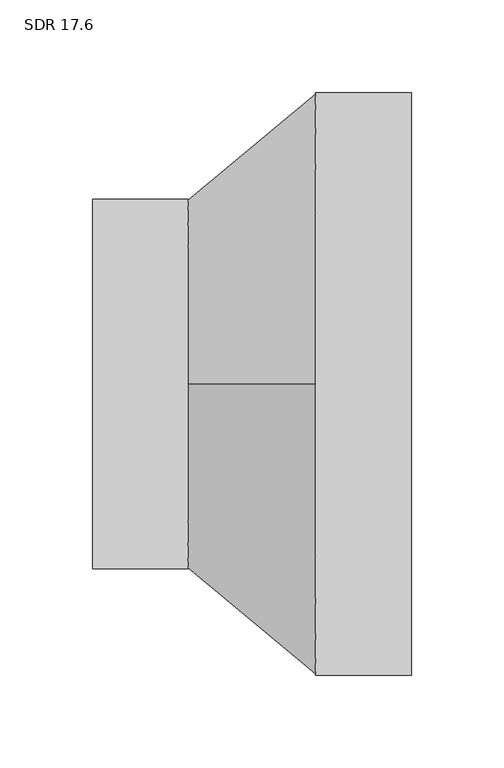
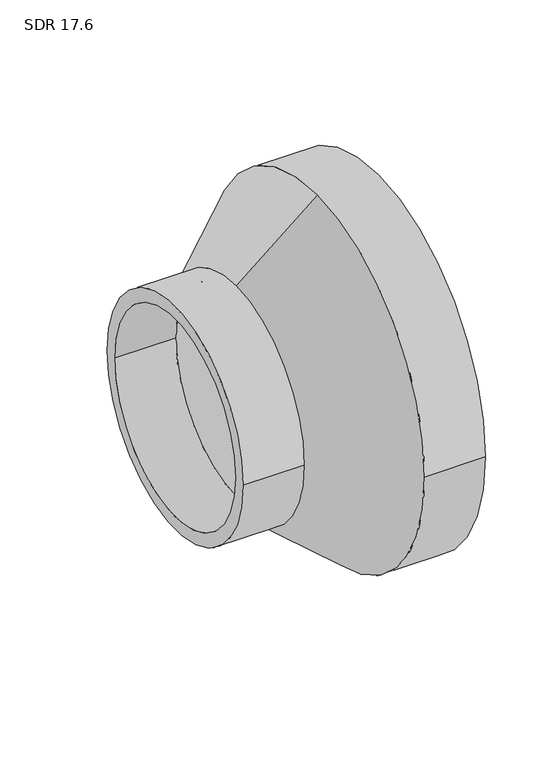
"""IFC4 building model written with IfcOpenShell, lengths in millimetres: pipe fitting geometry, Aquatherm - Reducing Coupling Combined - METRIC : SDR 17.6."""

from ifc_helpers import new_model, si_unit, frame, origin, place, context, project, spatial, polyline, circle_curve, source, transform, mapped, element, save
from ifc_brep_helpers import plane_surface, cylinder_surface, revolved_surface, advanced_brep


def sdr_17_6_d37f0617(model_context):
    return source(origin(), model_context, "Body", "AdvancedBrep", [
        advanced_brep(
        [(-86.233, -99.949, 0.0), (-86.233, 99.949, 0.0), (-86.233, -88.5911591, 0.0), (-86.233, 88.5911591, 0.0), (-34.4932, 88.5911591, 0.0), (-34.4932, 0.0, 88.5911591), (-34.4932, -88.5911591, 0.0), (-34.4932, 0.0, -88.5911591), (-34.4932, 99.949, 0.0), (-34.4932, 0.0, -99.949), (-34.4932, -99.949, 0.0), (-34.4932, 0.0, 99.949), (86.233, -157.48, 0.0), (86.233, 157.48, 0.0), (86.233, -139.5845455, 0.0), (86.233, 139.5845455, 0.0), (34.4932, -157.48, 0.0), (34.4932, 0.0, -157.48), (34.4932, 157.48, 0.0), (34.4932, 0.0, 157.48), (34.4932, -139.5845455, 0.0), (34.4932, 0.0, 139.5845455), (34.4932, 139.5845455, 0.0), (34.4932, 0.0, -139.5845455)],
        [
            (0, 1, circle_curve(frame((-86.233, 0.0, 0.0), z_axis=(-1.0, 0.0, 0.0), x_axis=(0.0, 1.0, 0.0)), 99.949)),
            (1, 0, circle_curve(frame((-86.233, 0.0, 0.0), z_axis=(-1.0, 0.0, 0.0), x_axis=(0.0, 1.0, 0.0)), 99.949)),
            (2, 3, circle_curve(frame((-86.233, 0.0, 0.0), z_axis=(1.0, 0.0, 0.0), x_axis=(0.0, 1.0, 0.0)), 88.5911591)),
            (3, 2, circle_curve(frame((-86.233, 0.0, 0.0), z_axis=(1.0, 0.0, 0.0), x_axis=(0.0, 1.0, 0.0)), 88.5911591)),
            (3, 4),
            (4, 5, circle_curve(frame((-34.4932, 0.0, 0.0), z_axis=(1.0, 0.0, 0.0), x_axis=(0.0, 1.0, 0.0)), 88.5911591)),
            (5, 6, circle_curve(frame((-34.4932, 0.0, 0.0), z_axis=(1.0, 0.0, 0.0), x_axis=(0.0, 1.0, 0.0)), 88.5911591)),
            (6, 2),
            (6, 7, circle_curve(frame((-34.4932, 0.0, 0.0), z_axis=(1.0, 0.0, 0.0), x_axis=(0.0, 1.0, 0.0)), 88.5911591)),
            (7, 4, circle_curve(frame((-34.4932, 0.0, 0.0), z_axis=(1.0, 0.0, 0.0), x_axis=(0.0, 1.0, 0.0)), 88.5911591)),
            (1, 8),
            (8, 9, circle_curve(frame((-34.4932, 0.0, 0.0), z_axis=(-1.0, 0.0, 0.0), x_axis=(0.0, 1.0, 0.0)), 99.949)),
            (9, 10, circle_curve(frame((-34.4932, 0.0, 0.0), z_axis=(-1.0, 0.0, 0.0), x_axis=(0.0, 1.0, 0.0)), 99.949)),
            (10, 0),
            (10, 11, circle_curve(frame((-34.4932, 0.0, 0.0), z_axis=(-1.0, 0.0, 0.0), x_axis=(0.0, 1.0, 0.0)), 99.949)),
            (11, 8, circle_curve(frame((-34.4932, 0.0, 0.0), z_axis=(-1.0, 0.0, 0.0), x_axis=(0.0, 1.0, 0.0)), 99.949)),
            (12, 13, circle_curve(frame((86.233, 0.0, 0.0), z_axis=(1.0, 0.0, 0.0), x_axis=(0.0, 1.0, 0.0)), 157.48)),
            (13, 12, circle_curve(frame((86.233, 0.0, 0.0), z_axis=(1.0, 0.0, 0.0), x_axis=(0.0, 1.0, 0.0)), 157.48)),
            (14, 15, circle_curve(frame((86.233, 0.0, 0.0), z_axis=(-1.0, 0.0, 0.0), x_axis=(0.0, 1.0, 0.0)), 139.5845455)),
            (15, 14, circle_curve(frame((86.233, 0.0, 0.0), z_axis=(-1.0, 0.0, 0.0), x_axis=(0.0, 1.0, 0.0)), 139.5845455)),
            (12, 16),
            (16, 17, circle_curve(frame((34.4932, 0.0, 0.0), z_axis=(1.0, 0.0, 0.0), x_axis=(0.0, 1.0, 0.0)), 157.48)),
            (17, 18, circle_curve(frame((34.4932, 0.0, 0.0), z_axis=(1.0, 0.0, 0.0), x_axis=(0.0, 1.0, 0.0)), 157.48)),
            (18, 13),
            (18, 19, circle_curve(frame((34.4932, 0.0, 0.0), z_axis=(1.0, 0.0, 0.0), x_axis=(0.0, 1.0, 0.0)), 157.48)),
            (19, 16, circle_curve(frame((34.4932, 0.0, 0.0), z_axis=(1.0, 0.0, 0.0), x_axis=(0.0, 1.0, 0.0)), 157.48)),
            (14, 20),
            (20, 21, circle_curve(frame((34.4932, 0.0, 0.0), z_axis=(-1.0, 0.0, 0.0), x_axis=(0.0, 1.0, 0.0)), 139.5845455)),
            (21, 22, circle_curve(frame((34.4932, 0.0, 0.0), z_axis=(-1.0, 0.0, 0.0), x_axis=(0.0, 1.0, 0.0)), 139.5845455)),
            (22, 15),
            (22, 23, circle_curve(frame((34.4932, 0.0, 0.0), z_axis=(-1.0, 0.0, 0.0), x_axis=(0.0, 1.0, 0.0)), 139.5845455)),
            (23, 20, circle_curve(frame((34.4932, 0.0, 0.0), z_axis=(-1.0, 0.0, 0.0), x_axis=(0.0, 1.0, 0.0)), 139.5845455)),
            (11, 19),
            (17, 9),
            (21, 5),
            (7, 23),
        ],
        [
            plane_surface(frame((-86.233, 88.5911591, 0.0), z_axis=(-1.0, 0.0, 0.0), x_axis=(0.0, 0.0, 1.0))),
            revolved_surface(polyline([(-86.233, 88.5911591, 0.0), (-34.4932, 88.5911591, 0.0)]), (-86.233, 0.0, 0.0), (-1.0, 0.0, 0.0)),
            cylinder_surface(frame((0.0, 0.0, 0.0), z_axis=(1.0, 0.0, 0.0), x_axis=(0.0, 1.0, 0.0)), 99.949),
            plane_surface(frame((86.233, 157.48, 0.0), z_axis=(1.0, 0.0, 0.0), x_axis=(0.0, 0.0, 1.0))),
            cylinder_surface(frame((34.4932, 0.0, 0.0), z_axis=(1.0, 0.0, 0.0), x_axis=(0.0, 1.0, 0.0)), 157.48),
            revolved_surface(polyline([(34.4932, 139.5845455, 0.0), (86.233, 139.5845455, 0.0)]), (0.0, 0.0, 0.0), (-1.0, 0.0, 0.0)),
            revolved_surface(polyline([(34.4932, 0.0, 157.48), (-34.4932, 0.0, 99.949)]), (-661.4925384, 0.0, 0.0), (-1.0, 0.0, 0.0)),
            revolved_surface(polyline([(-34.4932, 0.0, 88.5911591), (34.4932, 0.0, 139.5845455)]), (-661.4925384, 0.0, 0.0), (-1.0, 0.0, 0.0)),
        ],
        [
            (0, [[1, 2], [3, 4]]),
            (1, [[-4, 5, 6, 7, 8]]),
            (1, [[-3, -8, 9, 10, -5]]),
            (2, [[-2, 11, 12, 13, 14]]),
            (2, [[-1, -14, 15, 16, -11]]),
            (3, [[17, 18], [19, 20]]),
            (4, [[-17, 21, 22, 23, 24]]),
            (4, [[-18, -24, 25, 26, -21]]),
            (5, [[-19, 27, 28, 29, 30]]),
            (5, [[-20, -30, 31, 32, -27]]),
            (6, [[33, -25, -23, 34, -12, -16]]),
            (6, [[-33, -15, -13, -34, -22, -26]]),
            (7, [[35, -6, -10, 36, -31, -29]]),
            (7, [[-35, -28, -32, -36, -9, -7]]),
        ],
    ),
    ])


if __name__ == "__main__":
    model = new_model("IFC4")
    model_context = context("Model", 3, world=origin())
    ifc_project = project(units=[si_unit("LENGTHUNIT", "METRE", prefix="MILLI")], contexts=[model_context])
    site = spatial("IfcSite", under=ifc_project)
    building = spatial("IfcBuilding", under=site)
    placement = place(None, origin())
    sdr_17_6_shape = sdr_17_6_d37f0617(model_context)
    element("IfcPipeFitting", 1, ObjectType="Aquatherm - Reducing Coupling Combined - METRIC : SDR 17.6", at=placement, inside=building, context=model_context, shape_type="MappedRepresentation", body=[
        mapped(sdr_17_6_shape, transform((0.0, 0.0, 0.0), x_axis=(1.0, 0.0, 0.0), y_axis=(0.0, 1.0, 0.0), z_axis=(0.0, 0.0, 1.0))),
    ])
    save(model, "model.ifc")
